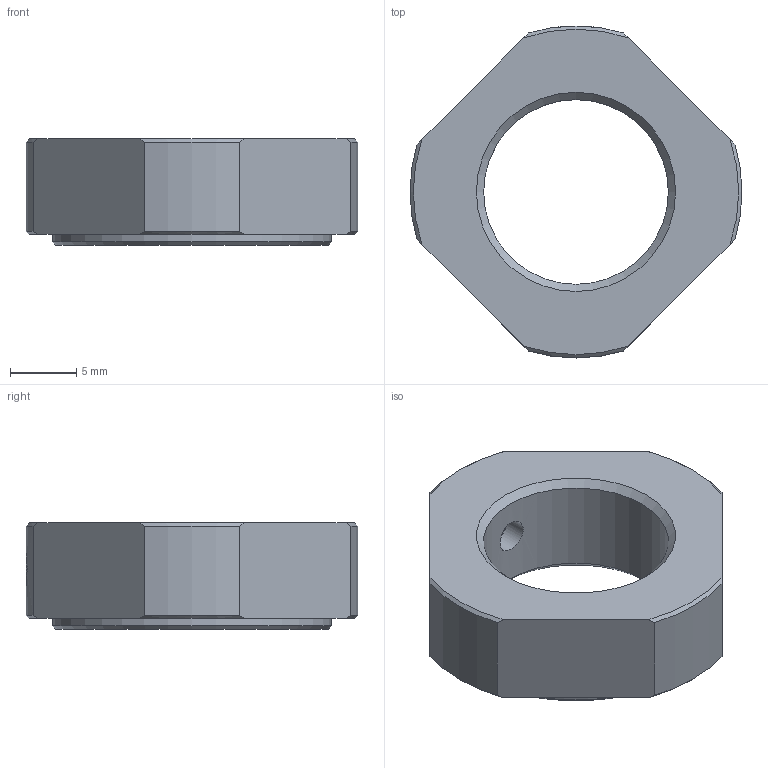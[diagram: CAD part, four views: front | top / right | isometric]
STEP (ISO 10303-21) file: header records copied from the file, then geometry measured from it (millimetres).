
FILE_DESCRIPTION(/* description */ ('STEP AP203'),/* implementation_level */ '2;1');
FILE_NAME(/* name */ 'RN 15',/* time_stamp */ '2025-06-11T07:41:40+02:00',/* author */ ('License CC BY-ND 4.0'),/* organization */ ('CADENAS'),/* preprocessor_version */ 'ST-DEVELOPER v19.3',/* originating_system */ 'PARTsolutions',/* authorisation */ ' ');
FILE_SCHEMA (('CONFIG_CONTROL_DESIGN'));
Length unit declared in the file: millimetre
Products named in the file (1): RN 15
Bounding box: 25 x 25 x 8 mm (x, y, z)
Volume: 2221.1 mm3; surface area: 1512.4 mm2
Topology: 1 solids, 1 shells, 36 faces, 87 edges, 57 vertices
Faces by surface type: plane 16, cone 12, cylinder 8
Full cylindrical faces by diameter (mm): 2.459 x1, 3 x1, 13.917 x1, 21 x1
Entity records: 1070 total; most frequent: CARTESIAN_POINT 239, DIRECTION 160, ORIENTED_EDGE 156, EDGE_CURVE 78, AXIS2_PLACEMENT_3D 63, VERTEX_POINT 56, EDGE_LOOP 50, FACE_BOUND 50
